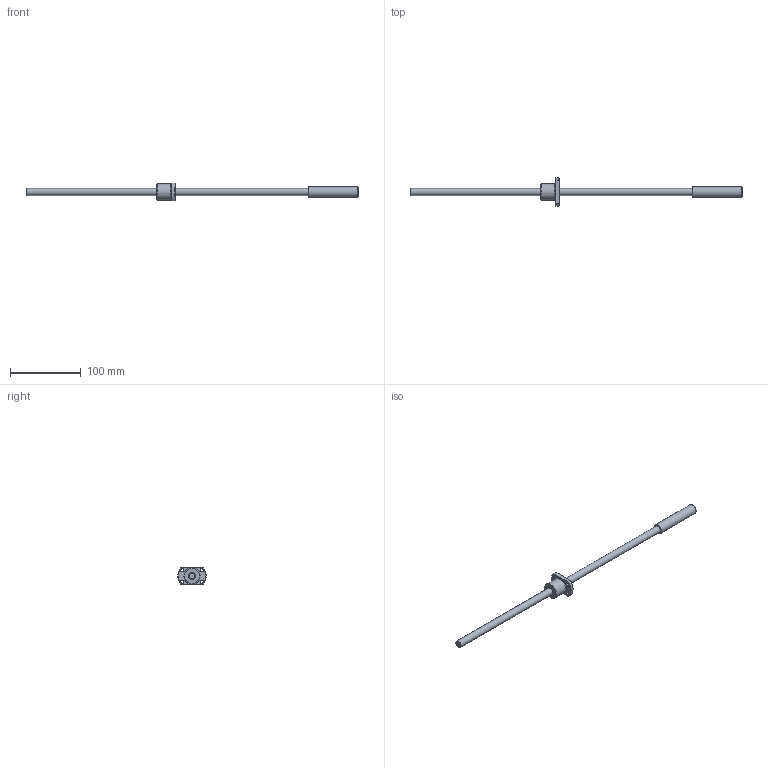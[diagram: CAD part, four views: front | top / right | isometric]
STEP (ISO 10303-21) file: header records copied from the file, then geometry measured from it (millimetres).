
FILE_DESCRIPTION(/* description */ ('STEP AP214'),/* implementation_level */ '2;1');
FILE_NAME(/* name */ 'SRT1005-396R470C7A0X(185None)',/* time_stamp */ '2026-08-06T15:09:27+02:00',/* author */ ('License CC BY-ND 4.0'),/* organization */ ('CADENAS'),/* preprocessor_version */ 'ST-DEVELOPER v20',/* originating_system */ 'PARTsolutions',/* authorisation */ ' ');
FILE_SCHEMA (('AUTOMOTIVE_DESIGN {1 0 10303 214 3 1 1}'));
Length unit declared in the file: millimetre
Products named in the file (3): SRT1005-396R470C7A0X(185None); SRT1005-396R470ACt7None62Shaft; SRT1005Nut
Assembly tree (2 placements, depth 2):
  SRT1005-396R470C7A0X(185None)
    SRT1005-396R470ACt7None62Shaft
    SRT1005Nut
Bounding box: 470 x 40 x 25 mm (x, y, z)
Volume: 53456.7 mm3; surface area: 20715.5 mm2
Topology: 2 solids, 2 shells, 27 faces, 61 edges, 41 vertices
Faces by surface type: cylinder 11, plane 9, cone 7
Full cylindrical faces by diameter (mm): 4.5 x4, 10 x2, 14.2 x1, 22.7 x1, 23 x1
Entity records: 779 total; most frequent: CARTESIAN_POINT 136, DIRECTION 126, ORIENTED_EDGE 90, AXIS2_PLACEMENT_3D 59, EDGE_LOOP 52, FACE_BOUND 52, EDGE_CURVE 45, VERTEX_POINT 37
